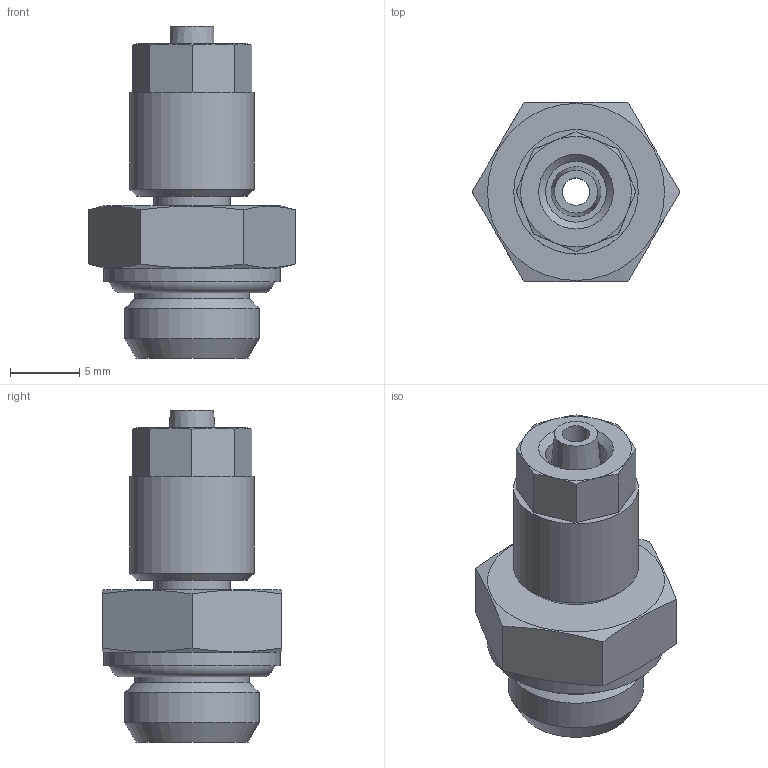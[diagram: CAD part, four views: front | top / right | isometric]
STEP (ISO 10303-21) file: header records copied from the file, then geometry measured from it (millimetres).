
FILE_DESCRIPTION(/* description */ (''),/* implementation_level */ '2;1');
FILE_NAME(/* name */ '10204_301Z_43_18_26.08.15',/* time_stamp */ '2015-08-26T11:57:29+02:00',/* author */ (''),/* organization */ (''),/* preprocessor_version */ 'ST-DEVELOPER v14',/* originating_system */ 'HiCAD 2013 1802.4 Build 509',/* authorisation */ '');
FILE_SCHEMA (('AUTOMOTIVE_DESIGN { 1 0 10303 214 1 1 1 1 }'));
Length unit declared in the file: millimetre
Products named in the file (4): Root; OR 7.2X1.9; R10207; 17002
Assembly tree (3 placements, depth 2):
  Root
    OR 7.2X1.9
    R10207
    17002
Bounding box: 15.01 x 13 x 24 mm (x, y, z)
Volume: 1654.3 mm3; surface area: 1909 mm2
Topology: 3 solids, 3 shells, 61 faces, 139 edges, 88 vertices
Faces by surface type: plane 24, cone 22, cylinder 11, torus 4
Full cylindrical faces by diameter (mm): 2 x1, 3.2 x1, 4.4 x1, 5 x1, 5.5 x1, 6.08 x1, 7 x1, 8.3 x1, 9 x1, 9.728 x1, 12.8 x1
Entity records: 2475 total; most frequent: DIRECTION 300, CARTESIAN_POINT 233, PRESENTATION_STYLE_ASSIGNMENT 191, COLOUR_RGB 190, DRAUGHTING_PRE_DEFINED_CURVE_FONT 188, CURVE_STYLE 188, OVER_RIDING_STYLED_ITEM 188, ORIENTED_EDGE 188
